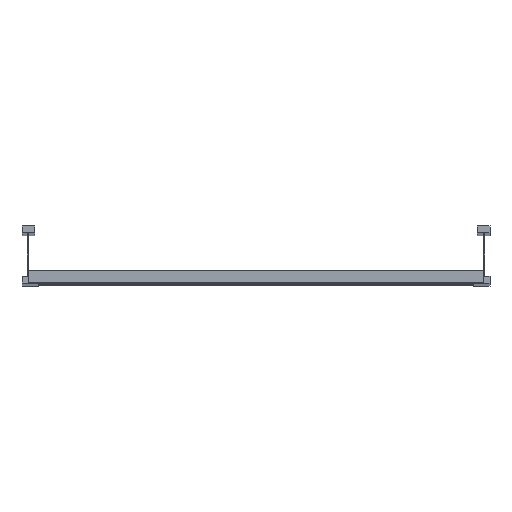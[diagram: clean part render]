
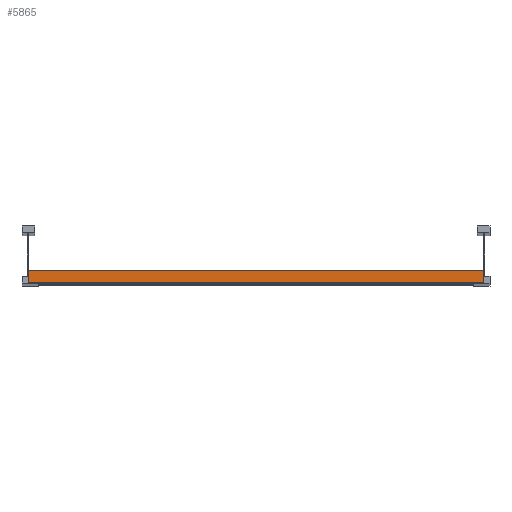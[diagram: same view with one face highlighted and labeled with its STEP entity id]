
A CAD part, top view. The second image highlights one B-rep face of the part: STEP entity #5865.
In plain terms, the highlighted planar face has unit normal (0, 0, 1).
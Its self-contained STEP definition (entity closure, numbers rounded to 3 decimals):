
#105 = DIRECTION ( 'NONE',  ( -1., 0., 0. ) ) ;
#436 = EDGE_LOOP ( 'NONE', ( #11552, #3951, #3015, #8777 ) ) ;
#460 = CARTESIAN_POINT ( 'NONE',  ( -398.5, 0., 20.25 ) ) ;
#991 = LINE ( 'NONE', #3650, #7981 ) ;
#1046 = DIRECTION ( 'NONE',  ( 0., -1., 0. ) ) ;
#1078 = CARTESIAN_POINT ( 'NONE',  ( 398.5, 0., 20.25 ) ) ;
#1261 = VECTOR ( 'NONE', #1046, 1000. ) ;
#1270 = CARTESIAN_POINT ( 'NONE',  ( -398.5, 20., 20.25 ) ) ;
#1927 = LINE ( 'NONE', #5527, #1261 ) ;
#2013 = LINE ( 'NONE', #1078, #9206 ) ;
#2185 = PLANE ( 'NONE',  #3535 ) ;
#2240 = CARTESIAN_POINT ( 'NONE',  ( 398.5, 20., 20.25 ) ) ;
#2359 = VERTEX_POINT ( 'NONE', #11259 ) ;
#3015 = ORIENTED_EDGE ( 'NONE', *, *, #6075, .F. ) ;
#3506 = LINE ( 'NONE', #10795, #11218 ) ;
#3535 = AXIS2_PLACEMENT_3D ( 'NONE', #2240, #8550, #6722 ) ;
#3650 = CARTESIAN_POINT ( 'NONE',  ( 398.5, 20., 20.25 ) ) ;
#3951 = ORIENTED_EDGE ( 'NONE', *, *, #7009, .F. ) ;
#4733 = DIRECTION ( 'NONE',  ( -1., 0., 0. ) ) ;
#5527 = CARTESIAN_POINT ( 'NONE',  ( 398.5, 20., 20.25 ) ) ;
#5566 = EDGE_CURVE ( 'NONE', #6189, #8506, #3506, .T. ) ;
#5865 = ADVANCED_FACE ( 'NONE', ( #11369 ), #2185, .F. ) ;
#6075 = EDGE_CURVE ( 'NONE', #7828, #2359, #1927, .T. ) ;
#6189 = VERTEX_POINT ( 'NONE', #1270 ) ;
#6722 = DIRECTION ( 'NONE',  ( 0., 1., 0. ) ) ;
#7009 = EDGE_CURVE ( 'NONE', #2359, #8506, #2013, .T. ) ;
#7828 = VERTEX_POINT ( 'NONE', #9686 ) ;
#7981 = VECTOR ( 'NONE', #105, 1000. ) ;
#8506 = VERTEX_POINT ( 'NONE', #460 ) ;
#8550 = DIRECTION ( 'NONE',  ( 0., 0., -1. ) ) ;
#8777 = ORIENTED_EDGE ( 'NONE', *, *, #10225, .T. ) ;
#9206 = VECTOR ( 'NONE', #4733, 1000. ) ;
#9686 = CARTESIAN_POINT ( 'NONE',  ( 398.5, 20., 20.25 ) ) ;
#9919 = DIRECTION ( 'NONE',  ( 0., -1., 0. ) ) ;
#10225 = EDGE_CURVE ( 'NONE', #7828, #6189, #991, .T. ) ;
#10795 = CARTESIAN_POINT ( 'NONE',  ( -398.5, 20., 20.25 ) ) ;
#11218 = VECTOR ( 'NONE', #9919, 1000. ) ;
#11259 = CARTESIAN_POINT ( 'NONE',  ( 398.5, 0., 20.25 ) ) ;
#11369 = FACE_OUTER_BOUND ( 'NONE', #436, .T. ) ;
#11552 = ORIENTED_EDGE ( 'NONE', *, *, #5566, .T. ) ;
